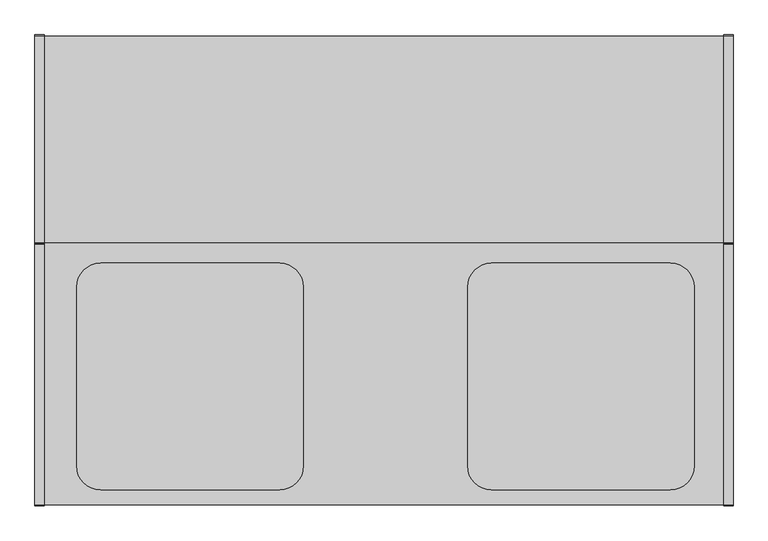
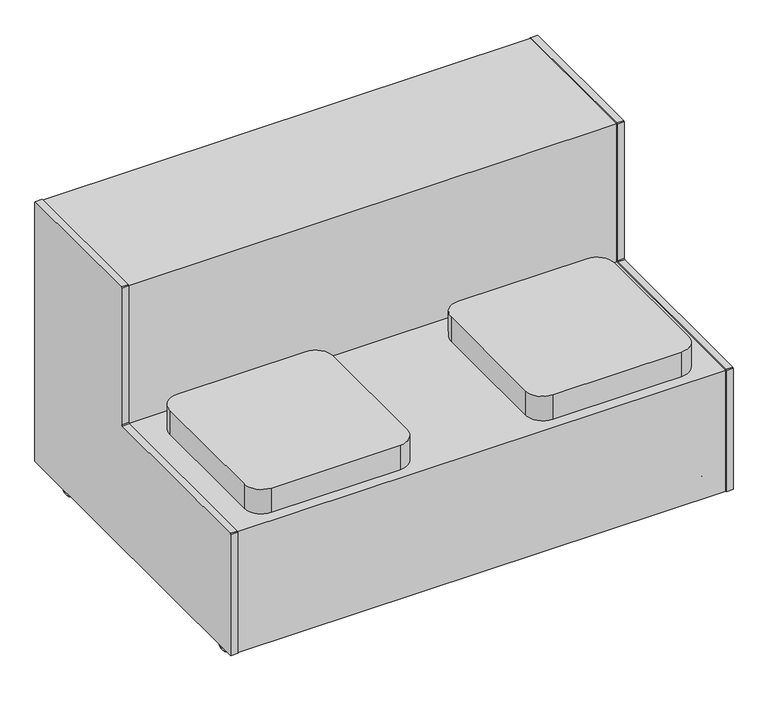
"""IFC4 building model written with IfcOpenShell, lengths in millimetres: furniture geometry, Minibeat : Minibeat."""

from ifc_helpers import new_model, si_unit, point, frame, frame_2d, origin, place, context, project, spatial, polyline, circle_curve, trimmed, segment, composite_curve, outline, extrude, faceted_brep, source, transform, mapped, element, save
from ifc_brep_helpers import plane_surface, cylinder_surface, revolved_surface, advanced_brep


def furniture_8e9b2c81(model_context):
    return source(origin(), model_context, "Body", "SolidModel", [
        advanced_brep(
        [(-561.811536, -89.9573819, 24.3420251), (-561.811536, -80.0000191, 45.0), (-561.811536, -50.0000191, 45.0), (-561.811536, -50.0000191, 36.8735679), (-561.811536, -73.226517, 13.64707), (-516.188464, -89.9573819, 24.3420251), (-516.188464, -73.226517, 13.64707), (-516.188464, -50.0000191, 36.8735679), (-516.188464, -50.0000191, 45.0), (-516.188464, -80.0000191, 45.0), (-559.1648103, -73.226517, 13.64707), (-559.1648103, -78.9722855, 10.1973629), (-519.1648103, -78.9722855, 10.1973629), (-519.1648103, -73.226517, 13.64707), (-519.1648103, -89.9573819, 24.3420251), (-519.1648103, -82.9261725, 10.1973629), (-559.1648103, -82.9261725, 10.1973629), (-559.1648103, -89.9573819, 24.3420251), (-519.1648103, -50.0000191, 36.8735679), (-559.1648103, -50.0000191, 36.8735679), (-519.1648103, -50.0000191, 42.357889), (-559.1648103, -50.0000191, 42.357889), (-559.1648103, -81.2735446, 42.357889), (-519.1648103, -81.2735446, 42.357889)],
        [
            (0, 1),
            (1, 2),
            (2, 3),
            (3, 4),
            (4, 0, circle_curve(frame((-561.811536, -80.949229, 20.0), z_axis=(-1.0, 0.0, 0.0), x_axis=(0.0, 1.0, 0.0)), 10.0)),
            (5, 6, circle_curve(frame((-516.188464, -80.949229, 20.0), z_axis=(1.0, 0.0, 0.0), x_axis=(0.0, 1.0, 0.0)), 10.0)),
            (6, 7),
            (7, 8),
            (8, 9),
            (9, 5),
            (4, 10),
            (10, 11, circle_curve(frame((-559.1648103, -80.949229, 20.0), z_axis=(-1.0, 0.0, 0.0), x_axis=(0.0, 1.0, 0.0)), 10.0)),
            (11, 12),
            (12, 13, circle_curve(frame((-519.1648103, -80.949229, 20.0), z_axis=(1.0, 0.0, 0.0), x_axis=(0.0, 1.0, 0.0)), 10.0)),
            (13, 6),
            (5, 14),
            (14, 15, circle_curve(frame((-519.1648103, -80.949229, 20.0), z_axis=(1.0, 0.0, 0.0), x_axis=(0.0, 1.0, 0.0)), 10.0)),
            (15, 16),
            (16, 17, circle_curve(frame((-559.1648103, -80.949229, 20.0), z_axis=(-1.0, 0.0, 0.0), x_axis=(0.0, 1.0, 0.0)), 10.0)),
            (17, 0),
            (13, 18),
            (18, 7),
            (3, 19),
            (19, 10),
            (2, 8),
            (18, 20),
            (20, 21),
            (21, 19),
            (1, 9),
            (17, 22),
            (22, 23),
            (23, 14),
            (11, 16),
            (15, 12),
            (21, 22),
            (20, 23),
        ],
        [
            plane_surface(frame((-561.811536, -70.949229, 20.0), z_axis=(-1.0, 0.0, 0.0), x_axis=(0.0, 0.0, 1.0))),
            plane_surface(frame((-516.188464, -70.949229, 20.0), z_axis=(1.0, 0.0, 0.0), x_axis=(0.0, 0.0, -1.0))),
            cylinder_surface(frame((-516.188464, -80.949229, 20.0), z_axis=(-1.0, 0.0, 0.0), x_axis=(0.0, 1.0, 0.0)), 10.0),
            plane_surface(frame((-561.811536, -73.226517, 13.64707), z_axis=(0.0, 0.7071067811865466, -0.7071067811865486), x_axis=(1.0, 0.0, 0.0))),
            plane_surface(frame((-561.811536, -50.0000191, 36.8735679), z_axis=(0.0, 1.0, 0.0), x_axis=(1.0, 0.0, 0.0))),
            plane_surface(frame((-561.811536, -50.0000191, 45.0), z_axis=(0.0, 0.0, 1.0), x_axis=(1.0, 0.0, 0.0))),
            plane_surface(frame((-561.811536, -80.0000191, 45.0), z_axis=(0.0, -0.9008152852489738, 0.4342025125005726), x_axis=(1.0, 0.0, 0.0))),
            plane_surface(frame((-519.1648103, -91.853286, 10.1973629), z_axis=(0.0, 0.0, 1.0), x_axis=(0.0, 1.0, 0.0))),
            plane_surface(frame((-559.1648103, -91.853286, 10.1973629), z_axis=(1.0, 0.0, 0.0), x_axis=(0.0, 1.0, 0.0))),
            plane_surface(frame((-559.1648103, -91.853286, 42.357889), z_axis=(0.0, 0.0, -1.0), x_axis=(0.0, 1.0, 0.0))),
            plane_surface(frame((-519.1648103, -91.853286, 42.357889), z_axis=(-1.0, 0.0, 0.0), x_axis=(0.0, 1.0, 0.0))),
        ],
        [
            (0, [[1, 2, 3, 4, 5]]),
            (1, [[6, 7, 8, 9, 10]]),
            (2, [[11, 12, 13, 14, 15, -6, 16, 17, 18, 19, 20, -5]]),
            (3, [[-15, 21, 22, -7]]),
            (3, [[23, 24, -11, -4]]),
            (4, [[25, -8, -22, 26, 27, 28, -23, -3]]),
            (5, [[29, -9, -25, -2]]),
            (6, [[-20, 30, 31, 32, -16, -10, -29, -1]]),
            (7, [[-13, 33, -18, 34]]),
            (8, [[-12, -24, -28, 35, -30, -19, -33]]),
            (9, [[-27, 36, -31, -35]]),
            (10, [[-17, -32, -36, -26, -21, -14, -34]]),
        ],
    ),
        advanced_brep(
        [(-519.1648103, -80.949229, 20.0), (-519.1648103, -98.7996515, 20.0), (-519.1648103, -63.0988065, 20.0), (-521.3143879, -100.949229, 20.0), (-557.0152328, -100.949229, 20.0), (-557.0152328, -60.949229, 20.0), (-521.3143879, -60.949229, 20.0), (-559.1648103, -98.7996515, 20.0), (-559.1648103, -80.949229, 20.0), (-559.1648103, -63.0988065, 20.0)],
        [
            (0, 1),
            (1, 2, circle_curve(frame((-519.1648103, -80.949229, 20.0), z_axis=(1.0, 0.0, 0.0), x_axis=(0.0, 1.0, 0.0)), 17.8504225)),
            (2, 0),
            (2, 1, circle_curve(frame((-519.1648103, -80.949229, 20.0), z_axis=(1.0, 0.0, 0.0), x_axis=(0.0, 1.0, 0.0)), 17.8504225)),
            (3, 4),
            (4, 5, circle_curve(frame((-557.0152328, -80.949229, 20.0), z_axis=(1.0, 0.0, 0.0), x_axis=(0.0, 1.0, 0.0)), 20.0)),
            (5, 6),
            (6, 3, circle_curve(frame((-521.3143879, -80.949229, 20.0), z_axis=(-1.0, 0.0, 0.0), x_axis=(0.0, 1.0, 0.0)), 20.0)),
            (5, 4, circle_curve(frame((-557.0152328, -80.949229, 20.0), z_axis=(1.0, 0.0, 0.0), x_axis=(0.0, 1.0, 0.0)), 20.0)),
            (3, 6, circle_curve(frame((-521.3143879, -80.949229, 20.0), z_axis=(-1.0, 0.0, 0.0), x_axis=(0.0, 1.0, 0.0)), 20.0)),
            (7, 8),
            (8, 9),
            (9, 7, circle_curve(frame((-559.1648103, -80.949229, 20.0), z_axis=(-1.0, 0.0, 0.0), x_axis=(0.0, 1.0, 0.0)), 17.8504225)),
            (7, 9, circle_curve(frame((-559.1648103, -80.949229, 20.0), z_axis=(-1.0, 0.0, 0.0), x_axis=(0.0, 1.0, 0.0)), 17.8504225)),
            (1, 3),
            (6, 2),
            (4, 7),
            (9, 5),
        ],
        [
            plane_surface(frame((-519.1648103, -80.949229, 20.0), z_axis=(1.0, 0.0, 0.0), x_axis=(0.0, 1.0, 0.0))),
            cylinder_surface(frame((-519.1648103, -80.949229, 20.0), z_axis=(1.0, 0.0, 0.0), x_axis=(0.0, 1.0, 0.0)), 20.0),
            plane_surface(frame((-559.1648103, -80.949229, 20.0), z_axis=(-1.0, 0.0, 0.0), x_axis=(0.0, 1.0, 0.0))),
            revolved_surface(polyline([(-521.3143879, -60.949229, 20.0), (-519.1648103, -63.0988065, 20.0)]), (-519.1648103, -80.949229, 20.0), (1.0, 0.0, 0.0)),
            revolved_surface(polyline([(-559.1648103, -63.0988065, 20.0), (-557.0152328, -60.949229, 20.0)]), (-519.1648103, -80.949229, 20.0), (1.0, 0.0, 0.0)),
        ],
        [
            (0, [[1, 2, 3]]),
            (0, [[-3, 4, -1]]),
            (1, [[5, 6, 7, 8]]),
            (1, [[-7, 9, -5, 10]]),
            (2, [[11, 12, 13]]),
            (2, [[-12, -11, 14]]),
            (3, [[15, -8, 16, -2]]),
            (3, [[-16, -10, -15, -4]]),
            (4, [[17, -13, 18, -6]]),
            (4, [[-18, -14, -17, -9]]),
        ],
    ),
        advanced_brep(
        [(561.811536, -89.9573819, 24.3420251), (561.811536, -73.226517, 13.64707), (561.811536, -50.0000191, 36.8735679), (561.811536, -50.0000191, 45.0), (561.811536, -80.0000191, 45.0), (516.188464, -89.9573819, 24.3420251), (516.188464, -80.0000191, 45.0), (516.188464, -50.0000191, 45.0), (516.188464, -50.0000191, 36.8735679), (516.188464, -73.226517, 13.64707), (559.1648103, -89.9573819, 24.3420251), (559.1648103, -82.9261725, 10.1973629), (519.1648103, -82.9261725, 10.1973629), (519.1648103, -89.9573819, 24.3420251), (519.1648103, -73.226517, 13.64707), (519.1648103, -78.9722855, 10.1973629), (559.1648103, -78.9722855, 10.1973629), (559.1648103, -73.226517, 13.64707), (559.1648103, -50.0000191, 36.8735679), (519.1648103, -50.0000191, 36.8735679), (559.1648103, -50.0000191, 42.357889), (519.1648103, -50.0000191, 42.357889), (519.1648103, -81.2735446, 42.357889), (559.1648103, -81.2735446, 42.357889)],
        [
            (0, 1, circle_curve(frame((561.811536, -80.949229, 20.0), z_axis=(1.0, 0.0, 0.0), x_axis=(0.0, 1.0, 0.0)), 10.0)),
            (1, 2),
            (2, 3),
            (3, 4),
            (4, 0),
            (5, 6),
            (6, 7),
            (7, 8),
            (8, 9),
            (9, 5, circle_curve(frame((516.188464, -80.949229, 20.0), z_axis=(-1.0, 0.0, 0.0), x_axis=(0.0, 1.0, 0.0)), 10.0)),
            (0, 10),
            (10, 11, circle_curve(frame((559.1648103, -80.949229, 20.0), z_axis=(1.0, 0.0, 0.0), x_axis=(0.0, 1.0, 0.0)), 10.0)),
            (11, 12),
            (12, 13, circle_curve(frame((519.1648103, -80.949229, 20.0), z_axis=(-1.0, 0.0, 0.0), x_axis=(0.0, 1.0, 0.0)), 10.0)),
            (13, 5),
            (9, 14),
            (14, 15, circle_curve(frame((519.1648103, -80.949229, 20.0), z_axis=(-1.0, 0.0, 0.0), x_axis=(0.0, 1.0, 0.0)), 10.0)),
            (15, 16),
            (16, 17, circle_curve(frame((559.1648103, -80.949229, 20.0), z_axis=(1.0, 0.0, 0.0), x_axis=(0.0, 1.0, 0.0)), 10.0)),
            (17, 1),
            (17, 18),
            (18, 2),
            (8, 19),
            (19, 14),
            (18, 20),
            (20, 21),
            (21, 19),
            (7, 3),
            (6, 4),
            (13, 22),
            (22, 23),
            (23, 10),
            (15, 12),
            (11, 16),
            (23, 20),
            (22, 21),
        ],
        [
            plane_surface(frame((561.811536, -70.949229, 20.0), z_axis=(1.0, 0.0, 0.0), x_axis=(0.0, 0.0, 1.0))),
            plane_surface(frame((516.188464, -70.949229, 20.0), z_axis=(-1.0, 0.0, 0.0), x_axis=(0.0, 0.0, -1.0))),
            cylinder_surface(frame((516.188464, -80.949229, 20.0), z_axis=(1.0, 0.0, 0.0), x_axis=(0.0, 1.0, 0.0)), 10.0),
            plane_surface(frame((561.811536, -73.226517, 13.64707), z_axis=(0.0, 0.7071067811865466, -0.7071067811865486), x_axis=(-1.0, 0.0, 0.0))),
            plane_surface(frame((561.811536, -50.0000191, 36.8735679), z_axis=(0.0, 1.0, 0.0), x_axis=(-1.0, 0.0, 0.0))),
            plane_surface(frame((561.811536, -50.0000191, 45.0), z_axis=(0.0, 0.0, 1.0), x_axis=(-1.0, 0.0, 0.0))),
            plane_surface(frame((561.811536, -80.0000191, 45.0), z_axis=(0.0, -0.9008152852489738, 0.4342025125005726), x_axis=(-1.0, 0.0, 0.0))),
            plane_surface(frame((519.1648103, -91.853286, 10.1973629), z_axis=(0.0, 0.0, 1.0), x_axis=(0.0, 1.0, 0.0))),
            plane_surface(frame((559.1648103, -91.853286, 10.1973629), z_axis=(-1.0, 0.0, 0.0), x_axis=(0.0, 1.0, 0.0))),
            plane_surface(frame((559.1648103, -91.853286, 42.357889), z_axis=(0.0, 0.0, -1.0), x_axis=(0.0, 1.0, 0.0))),
            plane_surface(frame((519.1648103, -91.853286, 42.357889), z_axis=(1.0, 0.0, 0.0), x_axis=(0.0, 1.0, 0.0))),
        ],
        [
            (0, [[1, 2, 3, 4, 5]]),
            (1, [[6, 7, 8, 9, 10]]),
            (2, [[-1, 11, 12, 13, 14, 15, -10, 16, 17, 18, 19, 20]]),
            (3, [[-2, -20, 21, 22]]),
            (3, [[-9, 23, 24, -16]]),
            (4, [[-3, -22, 25, 26, 27, -23, -8, 28]]),
            (5, [[-4, -28, -7, 29]]),
            (6, [[-5, -29, -6, -15, 30, 31, 32, -11]]),
            (7, [[33, -13, 34, -18]]),
            (8, [[-34, -12, -32, 35, -25, -21, -19]]),
            (9, [[-35, -31, 36, -26]]),
            (10, [[-33, -17, -24, -27, -36, -30, -14]]),
        ],
    ),
        advanced_brep(
        [(519.1648103, -80.949229, 20.0), (519.1648103, -63.0988065, 20.0), (519.1648103, -98.7996515, 20.0), (521.3143879, -100.949229, 20.0), (521.3143879, -60.949229, 20.0), (557.0152328, -60.949229, 20.0), (557.0152328, -100.949229, 20.0), (559.1648103, -98.7996515, 20.0), (559.1648103, -63.0988065, 20.0), (559.1648103, -80.949229, 20.0)],
        [
            (0, 1),
            (1, 2, circle_curve(frame((519.1648103, -80.949229, 20.0), z_axis=(-1.0, 0.0, 0.0), x_axis=(0.0, 1.0, 0.0)), 17.8504225)),
            (2, 0),
            (2, 1, circle_curve(frame((519.1648103, -80.949229, 20.0), z_axis=(-1.0, 0.0, 0.0), x_axis=(0.0, 1.0, 0.0)), 17.8504225)),
            (3, 4, circle_curve(frame((521.3143879, -80.949229, 20.0), z_axis=(1.0, 0.0, 0.0), x_axis=(0.0, 1.0, 0.0)), 20.0)),
            (4, 5),
            (5, 6, circle_curve(frame((557.0152328, -80.949229, 20.0), z_axis=(-1.0, 0.0, 0.0), x_axis=(0.0, 1.0, 0.0)), 20.0)),
            (6, 3),
            (4, 3, circle_curve(frame((521.3143879, -80.949229, 20.0), z_axis=(1.0, 0.0, 0.0), x_axis=(0.0, 1.0, 0.0)), 20.0)),
            (6, 5, circle_curve(frame((557.0152328, -80.949229, 20.0), z_axis=(-1.0, 0.0, 0.0), x_axis=(0.0, 1.0, 0.0)), 20.0)),
            (7, 8, circle_curve(frame((559.1648103, -80.949229, 20.0), z_axis=(1.0, 0.0, 0.0), x_axis=(0.0, 1.0, 0.0)), 17.8504225)),
            (8, 9),
            (9, 7),
            (8, 7, circle_curve(frame((559.1648103, -80.949229, 20.0), z_axis=(1.0, 0.0, 0.0), x_axis=(0.0, 1.0, 0.0)), 17.8504225)),
            (1, 4),
            (3, 2),
            (5, 8),
            (7, 6),
        ],
        [
            plane_surface(frame((519.1648103, -80.949229, 20.0), z_axis=(-1.0, 0.0, 0.0), x_axis=(0.0, 1.0, 0.0))),
            cylinder_surface(frame((519.1648103, -80.949229, 20.0), z_axis=(-1.0, 0.0, 0.0), x_axis=(0.0, 1.0, 0.0)), 20.0),
            plane_surface(frame((559.1648103, -80.949229, 20.0), z_axis=(1.0, 0.0, 0.0), x_axis=(0.0, 1.0, 0.0))),
            revolved_surface(polyline([(521.3143879, -60.949229, 20.0), (519.1648103, -63.0988065, 20.0)]), (519.1648103, -80.949229, 20.0), (-1.0, 0.0, 0.0)),
            revolved_surface(polyline([(559.1648103, -63.0988065, 20.0), (557.0152328, -60.949229, 20.0)]), (519.1648103, -80.949229, 20.0), (-1.0, 0.0, 0.0)),
        ],
        [
            (0, [[1, 2, 3]]),
            (0, [[-3, 4, -1]]),
            (1, [[5, 6, 7, 8]]),
            (1, [[9, -8, 10, -6]]),
            (2, [[11, 12, 13]]),
            (2, [[14, -13, -12]]),
            (3, [[-2, 15, -5, 16]]),
            (3, [[-4, -16, -9, -15]]),
            (4, [[-7, 17, -11, 18]]),
            (4, [[-10, -18, -14, -17]]),
        ],
    ),
        advanced_brep(
        [(-561.811536, -719.9573819, 24.3420251), (-561.811536, -710.0000191, 45.0), (-561.811536, -680.0000191, 45.0), (-561.811536, -680.0000191, 36.8735679), (-561.811536, -703.226517, 13.64707), (-516.188464, -719.9573819, 24.3420251), (-516.188464, -703.226517, 13.64707), (-516.188464, -680.0000191, 36.8735679), (-516.188464, -680.0000191, 45.0), (-516.188464, -710.0000191, 45.0), (-559.1648103, -703.226517, 13.64707), (-559.1648103, -708.9722855, 10.1973629), (-519.1648103, -708.9722855, 10.1973629), (-519.1648103, -703.226517, 13.64707), (-519.1648103, -719.9573819, 24.3420251), (-519.1648103, -712.9261725, 10.1973629), (-559.1648103, -712.9261725, 10.1973629), (-559.1648103, -719.9573819, 24.3420251), (-519.1648103, -680.0000191, 36.8735679), (-559.1648103, -680.0000191, 36.8735679), (-519.1648103, -680.0000191, 42.357889), (-559.1648103, -680.0000191, 42.357889), (-559.1648103, -711.2735446, 42.357889), (-519.1648103, -711.2735446, 42.357889)],
        [
            (0, 1),
            (1, 2),
            (2, 3),
            (3, 4),
            (4, 0, circle_curve(frame((-561.811536, -710.949229, 20.0), z_axis=(-1.0, 0.0, 0.0), x_axis=(0.0, 1.0, 0.0)), 10.0)),
            (5, 6, circle_curve(frame((-516.188464, -710.949229, 20.0), z_axis=(1.0, 0.0, 0.0), x_axis=(0.0, 1.0, 0.0)), 10.0)),
            (6, 7),
            (7, 8),
            (8, 9),
            (9, 5),
            (4, 10),
            (10, 11, circle_curve(frame((-559.1648103, -710.949229, 20.0), z_axis=(-1.0, 0.0, 0.0), x_axis=(0.0, 1.0, 0.0)), 10.0)),
            (11, 12),
            (12, 13, circle_curve(frame((-519.1648103, -710.949229, 20.0), z_axis=(1.0, 0.0, 0.0), x_axis=(0.0, 1.0, 0.0)), 10.0)),
            (13, 6),
            (5, 14),
            (14, 15, circle_curve(frame((-519.1648103, -710.949229, 20.0), z_axis=(1.0, 0.0, 0.0), x_axis=(0.0, 1.0, 0.0)), 10.0)),
            (15, 16),
            (16, 17, circle_curve(frame((-559.1648103, -710.949229, 20.0), z_axis=(-1.0, 0.0, 0.0), x_axis=(0.0, 1.0, 0.0)), 10.0)),
            (17, 0),
            (13, 18),
            (18, 7),
            (3, 19),
            (19, 10),
            (2, 8),
            (18, 20),
            (20, 21),
            (21, 19),
            (1, 9),
            (17, 22),
            (22, 23),
            (23, 14),
            (11, 16),
            (15, 12),
            (21, 22),
            (20, 23),
        ],
        [
            plane_surface(frame((-561.811536, -700.949229, 20.0), z_axis=(-1.0, 0.0, 0.0), x_axis=(0.0, 0.0, 1.0))),
            plane_surface(frame((-516.188464, -700.949229, 20.0), z_axis=(1.0, 0.0, 0.0), x_axis=(0.0, 0.0, -1.0))),
            cylinder_surface(frame((-516.188464, -710.949229, 20.0), z_axis=(-1.0, 0.0, 0.0), x_axis=(0.0, 1.0, 0.0)), 10.0),
            plane_surface(frame((-561.811536, -703.226517, 13.64707), z_axis=(0.0, 0.7071067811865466, -0.7071067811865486), x_axis=(1.0, 0.0, 0.0))),
            plane_surface(frame((-561.811536, -680.0000191, 36.8735679), z_axis=(0.0, 1.0, 0.0), x_axis=(1.0, 0.0, 0.0))),
            plane_surface(frame((-561.811536, -680.0000191, 45.0), z_axis=(0.0, 0.0, 1.0), x_axis=(1.0, 0.0, 0.0))),
            plane_surface(frame((-561.811536, -710.0000191, 45.0), z_axis=(0.0, -0.9008152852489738, 0.4342025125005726), x_axis=(1.0, 0.0, 0.0))),
            plane_surface(frame((-519.1648103, -721.853286, 10.1973629), z_axis=(0.0, 0.0, 1.0), x_axis=(0.0, 1.0, 0.0))),
            plane_surface(frame((-559.1648103, -721.853286, 10.1973629), z_axis=(1.0, 0.0, 0.0), x_axis=(0.0, 1.0, 0.0))),
            plane_surface(frame((-559.1648103, -721.853286, 42.357889), z_axis=(0.0, 0.0, -1.0), x_axis=(0.0, 1.0, 0.0))),
            plane_surface(frame((-519.1648103, -721.853286, 42.357889), z_axis=(-1.0, 0.0, 0.0), x_axis=(0.0, 1.0, 0.0))),
        ],
        [
            (0, [[1, 2, 3, 4, 5]]),
            (1, [[6, 7, 8, 9, 10]]),
            (2, [[11, 12, 13, 14, 15, -6, 16, 17, 18, 19, 20, -5]]),
            (3, [[-15, 21, 22, -7]]),
            (3, [[23, 24, -11, -4]]),
            (4, [[25, -8, -22, 26, 27, 28, -23, -3]]),
            (5, [[29, -9, -25, -2]]),
            (6, [[-20, 30, 31, 32, -16, -10, -29, -1]]),
            (7, [[-13, 33, -18, 34]]),
            (8, [[-12, -24, -28, 35, -30, -19, -33]]),
            (9, [[-27, 36, -31, -35]]),
            (10, [[-17, -32, -36, -26, -21, -14, -34]]),
        ],
    ),
        advanced_brep(
        [(-519.1648103, -710.949229, 20.0), (-519.1648103, -728.7996515, 20.0), (-519.1648103, -693.0988065, 20.0), (-521.3143879, -730.949229, 20.0), (-557.0152328, -730.949229, 20.0), (-557.0152328, -690.949229, 20.0), (-521.3143879, -690.949229, 20.0), (-559.1648103, -728.7996515, 20.0), (-559.1648103, -710.949229, 20.0), (-559.1648103, -693.0988065, 20.0)],
        [
            (0, 1),
            (1, 2, circle_curve(frame((-519.1648103, -710.949229, 20.0), z_axis=(1.0, 0.0, 0.0), x_axis=(0.0, 1.0, 0.0)), 17.8504225)),
            (2, 0),
            (2, 1, circle_curve(frame((-519.1648103, -710.949229, 20.0), z_axis=(1.0, 0.0, 0.0), x_axis=(0.0, 1.0, 0.0)), 17.8504225)),
            (3, 4),
            (4, 5, circle_curve(frame((-557.0152328, -710.949229, 20.0), z_axis=(1.0, 0.0, 0.0), x_axis=(0.0, 1.0, 0.0)), 20.0)),
            (5, 6),
            (6, 3, circle_curve(frame((-521.3143879, -710.949229, 20.0), z_axis=(-1.0, 0.0, 0.0), x_axis=(0.0, 1.0, 0.0)), 20.0)),
            (5, 4, circle_curve(frame((-557.0152328, -710.949229, 20.0), z_axis=(1.0, 0.0, 0.0), x_axis=(0.0, 1.0, 0.0)), 20.0)),
            (3, 6, circle_curve(frame((-521.3143879, -710.949229, 20.0), z_axis=(-1.0, 0.0, 0.0), x_axis=(0.0, 1.0, 0.0)), 20.0)),
            (7, 8),
            (8, 9),
            (9, 7, circle_curve(frame((-559.1648103, -710.949229, 20.0), z_axis=(-1.0, 0.0, 0.0), x_axis=(0.0, 1.0, 0.0)), 17.8504225)),
            (7, 9, circle_curve(frame((-559.1648103, -710.949229, 20.0), z_axis=(-1.0, 0.0, 0.0), x_axis=(0.0, 1.0, 0.0)), 17.8504225)),
            (1, 3),
            (6, 2),
            (4, 7),
            (9, 5),
        ],
        [
            plane_surface(frame((-519.1648103, -710.949229, 20.0), z_axis=(1.0, 0.0, 0.0), x_axis=(0.0, 1.0, 0.0))),
            cylinder_surface(frame((-519.1648103, -710.949229, 20.0), z_axis=(1.0, 0.0, 0.0), x_axis=(0.0, 1.0, 0.0)), 20.0),
            plane_surface(frame((-559.1648103, -710.949229, 20.0), z_axis=(-1.0, 0.0, 0.0), x_axis=(0.0, 1.0, 0.0))),
            revolved_surface(polyline([(-521.3143879, -690.949229, 20.0), (-519.1648103, -693.0988065, 20.0)]), (-519.1648103, -710.949229, 20.0), (1.0, 0.0, 0.0)),
            revolved_surface(polyline([(-559.1648103, -693.0988065, 20.0), (-557.0152328, -690.949229, 20.0)]), (-519.1648103, -710.949229, 20.0), (1.0, 0.0, 0.0)),
        ],
        [
            (0, [[1, 2, 3]]),
            (0, [[-3, 4, -1]]),
            (1, [[5, 6, 7, 8]]),
            (1, [[-7, 9, -5, 10]]),
            (2, [[11, 12, 13]]),
            (2, [[-12, -11, 14]]),
            (3, [[15, -8, 16, -2]]),
            (3, [[-16, -10, -15, -4]]),
            (4, [[17, -13, 18, -6]]),
            (4, [[-18, -14, -17, -9]]),
        ],
    ),
        advanced_brep(
        [(561.811536, -719.9573819, 24.3420251), (561.811536, -703.226517, 13.64707), (561.811536, -680.0000191, 36.8735679), (561.811536, -680.0000191, 45.0), (561.811536, -710.0000191, 45.0), (516.188464, -719.9573819, 24.3420251), (516.188464, -710.0000191, 45.0), (516.188464, -680.0000191, 45.0), (516.188464, -680.0000191, 36.8735679), (516.188464, -703.226517, 13.64707), (559.1648103, -719.9573819, 24.3420251), (559.1648103, -712.9261725, 10.1973629), (519.1648103, -712.9261725, 10.1973629), (519.1648103, -719.9573819, 24.3420251), (519.1648103, -703.226517, 13.64707), (519.1648103, -708.9722855, 10.1973629), (559.1648103, -708.9722855, 10.1973629), (559.1648103, -703.226517, 13.64707), (559.1648103, -680.0000191, 36.8735679), (519.1648103, -680.0000191, 36.8735679), (559.1648103, -680.0000191, 42.357889), (519.1648103, -680.0000191, 42.357889), (519.1648103, -711.2735446, 42.357889), (559.1648103, -711.2735446, 42.357889)],
        [
            (0, 1, circle_curve(frame((561.811536, -710.949229, 20.0), z_axis=(1.0, 0.0, 0.0), x_axis=(0.0, 1.0, 0.0)), 10.0)),
            (1, 2),
            (2, 3),
            (3, 4),
            (4, 0),
            (5, 6),
            (6, 7),
            (7, 8),
            (8, 9),
            (9, 5, circle_curve(frame((516.188464, -710.949229, 20.0), z_axis=(-1.0, 0.0, 0.0), x_axis=(0.0, 1.0, 0.0)), 10.0)),
            (0, 10),
            (10, 11, circle_curve(frame((559.1648103, -710.949229, 20.0), z_axis=(1.0, 0.0, 0.0), x_axis=(0.0, 1.0, 0.0)), 10.0)),
            (11, 12),
            (12, 13, circle_curve(frame((519.1648103, -710.949229, 20.0), z_axis=(-1.0, 0.0, 0.0), x_axis=(0.0, 1.0, 0.0)), 10.0)),
            (13, 5),
            (9, 14),
            (14, 15, circle_curve(frame((519.1648103, -710.949229, 20.0), z_axis=(-1.0, 0.0, 0.0), x_axis=(0.0, 1.0, 0.0)), 10.0)),
            (15, 16),
            (16, 17, circle_curve(frame((559.1648103, -710.949229, 20.0), z_axis=(1.0, 0.0, 0.0), x_axis=(0.0, 1.0, 0.0)), 10.0)),
            (17, 1),
            (17, 18),
            (18, 2),
            (8, 19),
            (19, 14),
            (18, 20),
            (20, 21),
            (21, 19),
            (7, 3),
            (6, 4),
            (13, 22),
            (22, 23),
            (23, 10),
            (15, 12),
            (11, 16),
            (23, 20),
            (22, 21),
        ],
        [
            plane_surface(frame((561.811536, -700.949229, 20.0), z_axis=(1.0, 0.0, 0.0), x_axis=(0.0, 0.0, 1.0))),
            plane_surface(frame((516.188464, -700.949229, 20.0), z_axis=(-1.0, 0.0, 0.0), x_axis=(0.0, 0.0, -1.0))),
            cylinder_surface(frame((516.188464, -710.949229, 20.0), z_axis=(1.0, 0.0, 0.0), x_axis=(0.0, 1.0, 0.0)), 10.0),
            plane_surface(frame((561.811536, -703.226517, 13.64707), z_axis=(0.0, 0.7071067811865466, -0.7071067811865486), x_axis=(-1.0, 0.0, 0.0))),
            plane_surface(frame((561.811536, -680.0000191, 36.8735679), z_axis=(0.0, 1.0, 0.0), x_axis=(-1.0, 0.0, 0.0))),
            plane_surface(frame((561.811536, -680.0000191, 45.0), z_axis=(0.0, 0.0, 1.0), x_axis=(-1.0, 0.0, 0.0))),
            plane_surface(frame((561.811536, -710.0000191, 45.0), z_axis=(0.0, -0.9008152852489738, 0.4342025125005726), x_axis=(-1.0, 0.0, 0.0))),
            plane_surface(frame((519.1648103, -721.853286, 10.1973629), z_axis=(0.0, 0.0, 1.0), x_axis=(0.0, 1.0, 0.0))),
            plane_surface(frame((559.1648103, -721.853286, 10.1973629), z_axis=(-1.0, 0.0, 0.0), x_axis=(0.0, 1.0, 0.0))),
            plane_surface(frame((559.1648103, -721.853286, 42.357889), z_axis=(0.0, 0.0, -1.0), x_axis=(0.0, 1.0, 0.0))),
            plane_surface(frame((519.1648103, -721.853286, 42.357889), z_axis=(1.0, 0.0, 0.0), x_axis=(0.0, 1.0, 0.0))),
        ],
        [
            (0, [[1, 2, 3, 4, 5]]),
            (1, [[6, 7, 8, 9, 10]]),
            (2, [[-1, 11, 12, 13, 14, 15, -10, 16, 17, 18, 19, 20]]),
            (3, [[-2, -20, 21, 22]]),
            (3, [[-9, 23, 24, -16]]),
            (4, [[-3, -22, 25, 26, 27, -23, -8, 28]]),
            (5, [[-4, -28, -7, 29]]),
            (6, [[-5, -29, -6, -15, 30, 31, 32, -11]]),
            (7, [[33, -13, 34, -18]]),
            (8, [[-34, -12, -32, 35, -25, -21, -19]]),
            (9, [[-35, -31, 36, -26]]),
            (10, [[-33, -17, -24, -27, -36, -30, -14]]),
        ],
    ),
        advanced_brep(
        [(519.1648103, -710.949229, 20.0), (519.1648103, -693.0988065, 20.0), (519.1648103, -728.7996515, 20.0), (521.3143879, -730.949229, 20.0), (521.3143879, -690.949229, 20.0), (557.0152328, -690.949229, 20.0), (557.0152328, -730.949229, 20.0), (559.1648103, -728.7996515, 20.0), (559.1648103, -693.0988065, 20.0), (559.1648103, -710.949229, 20.0)],
        [
            (0, 1),
            (1, 2, circle_curve(frame((519.1648103, -710.949229, 20.0), z_axis=(-1.0, 0.0, 0.0), x_axis=(0.0, 1.0, 0.0)), 17.8504225)),
            (2, 0),
            (2, 1, circle_curve(frame((519.1648103, -710.949229, 20.0), z_axis=(-1.0, 0.0, 0.0), x_axis=(0.0, 1.0, 0.0)), 17.8504225)),
            (3, 4, circle_curve(frame((521.3143879, -710.949229, 20.0), z_axis=(1.0, 0.0, 0.0), x_axis=(0.0, 1.0, 0.0)), 20.0)),
            (4, 5),
            (5, 6, circle_curve(frame((557.0152328, -710.949229, 20.0), z_axis=(-1.0, 0.0, 0.0), x_axis=(0.0, 1.0, 0.0)), 20.0)),
            (6, 3),
            (4, 3, circle_curve(frame((521.3143879, -710.949229, 20.0), z_axis=(1.0, 0.0, 0.0), x_axis=(0.0, 1.0, 0.0)), 20.0)),
            (6, 5, circle_curve(frame((557.0152328, -710.949229, 20.0), z_axis=(-1.0, 0.0, 0.0), x_axis=(0.0, 1.0, 0.0)), 20.0)),
            (7, 8, circle_curve(frame((559.1648103, -710.949229, 20.0), z_axis=(1.0, 0.0, 0.0), x_axis=(0.0, 1.0, 0.0)), 17.8504225)),
            (8, 9),
            (9, 7),
            (8, 7, circle_curve(frame((559.1648103, -710.949229, 20.0), z_axis=(1.0, 0.0, 0.0), x_axis=(0.0, 1.0, 0.0)), 17.8504225)),
            (1, 4),
            (3, 2),
            (5, 8),
            (7, 6),
        ],
        [
            plane_surface(frame((519.1648103, -710.949229, 20.0), z_axis=(-1.0, 0.0, 0.0), x_axis=(0.0, 1.0, 0.0))),
            cylinder_surface(frame((519.1648103, -710.949229, 20.0), z_axis=(-1.0, 0.0, 0.0), x_axis=(0.0, 1.0, 0.0)), 20.0),
            plane_surface(frame((559.1648103, -710.949229, 20.0), z_axis=(1.0, 0.0, 0.0), x_axis=(0.0, 1.0, 0.0))),
            revolved_surface(polyline([(521.3143879, -690.949229, 20.0), (519.1648103, -693.0988065, 20.0)]), (519.1648103, -710.949229, 20.0), (-1.0, 0.0, 0.0)),
            revolved_surface(polyline([(559.1648103, -693.0988065, 20.0), (557.0152328, -690.949229, 20.0)]), (519.1648103, -710.949229, 20.0), (-1.0, 0.0, 0.0)),
        ],
        [
            (0, [[1, 2, 3]]),
            (0, [[-3, 4, -1]]),
            (1, [[5, 6, 7, 8]]),
            (1, [[9, -8, 10, -6]]),
            (2, [[11, 12, 13]]),
            (2, [[14, -13, -12]]),
            (3, [[-2, 15, -5, 16]]),
            (3, [[-4, -16, -9, -15]]),
            (4, [[-7, 17, -11, 18]]),
            (4, [[-10, -18, -14, -17]]),
        ],
    ),
        extrude(outline(composite_curve([segment(trimmed(circle_curve(frame_2d((-175.0000006, -723.0000191)), 40.0), [point((-135.0000006, -723.0000191))], [point((-175.0000006, -763.0000191))], False, "CARTESIAN"), True, "CONTINUOUS"), segment(polyline([(-175.0000006, -763.0000191), (-475.0000006, -763.0000191)]), True, "CONTINUOUS"), segment(trimmed(circle_curve(frame_2d((-475.0000006, -723.0000191)), 40.0), [point((-475.0000006, -763.0000191))], [point((-515.0000006, -723.0000191))], False, "CARTESIAN"), True, "CONTINUOUS"), segment(polyline([(-515.0000006, -723.0000191), (-515.0000006, -423.0000191)]), True, "CONTINUOUS"), segment(trimmed(circle_curve(frame_2d((-475.0000006, -423.0000191)), 40.0), [point((-515.0000006, -423.0000191))], [point((-475.0000006, -383.0000191))], False, "CARTESIAN"), True, "CONTINUOUS"), segment(polyline([(-475.0000006, -383.0000191), (-175.0000006, -383.0000191)]), True, "CONTINUOUS"), segment(trimmed(circle_curve(frame_2d((-175.0000006, -423.0000191)), 40.0), [point((-175.0000006, -383.0000191))], [point((-135.0000006, -423.0000191))], False, "CARTESIAN"), True, "CONTINUOUS"), segment(polyline([(-135.0000006, -423.0000191), (-135.0000006, -723.0000191)]), True, "CONTINUOUS")], self_intersect=False)), frame((0.0, 0.0, 343.0), z_axis=(0.0, 0.0, 1.0), x_axis=(1.0, 0.0, 0.0)), (0.0, 0.0, 1.0), 60.0),
        extrude(outline(composite_curve([segment(trimmed(circle_curve(frame_2d((479.9999994, -723.0000191)), 40.0), [point((519.9999994, -723.0000191))], [point((479.9999994, -763.0000191))], False, "CARTESIAN"), True, "CONTINUOUS"), segment(polyline([(479.9999994, -763.0000191), (179.9999994, -763.0000191)]), True, "CONTINUOUS"), segment(trimmed(circle_curve(frame_2d((179.9999994, -723.0000191)), 40.0), [point((179.9999994, -763.0000191))], [point((139.9999994, -723.0000191))], False, "CARTESIAN"), True, "CONTINUOUS"), segment(polyline([(139.9999994, -723.0000191), (139.9999994, -423.0000191)]), True, "CONTINUOUS"), segment(trimmed(circle_curve(frame_2d((179.9999994, -423.0000191)), 40.0), [point((139.9999994, -423.0000191))], [point((179.9999994, -383.0000191))], False, "CARTESIAN"), True, "CONTINUOUS"), segment(polyline([(179.9999994, -383.0000191), (479.9999994, -383.0000191)]), True, "CONTINUOUS"), segment(trimmed(circle_curve(frame_2d((479.9999994, -423.0000191)), 40.0), [point((479.9999994, -383.0000191))], [point((519.9999994, -423.0000191))], False, "CARTESIAN"), True, "CONTINUOUS"), segment(polyline([(519.9999994, -423.0000191), (519.9999994, -723.0000191)]), True, "CONTINUOUS")], self_intersect=False)), frame((0.0, 0.0, 343.0), z_axis=(0.0, 0.0, 1.0), x_axis=(1.0, 0.0, 0.0)), (0.0, 0.0, 1.0), 60.0),
        extrude(outline(polyline([(-348.0000191, 685.0), (-2.0, 685.0), (0.0, 683.0), (0.0, 45.0), (-790.0, 45.0), (-790.0, 343.0), (-788.0, 345.0), (-352.0000191, 345.0), (-350.0000191, 347.0), (-350.0000191, 683.0), (-348.0000191, 685.0)])), frame((569.0, 0.0, 0.0), z_axis=(1.0, 0.0, 0.0), x_axis=(0.0, 1.0, 0.0)), (0.0, 0.0, 1.0), 16.0),
        faceted_brep([(569.0, -348.0000191, 683.0), (569.0, -348.0000191, 343.0), (569.0, -788.0, 343.0), (569.0, -788.0, 45.0), (569.0, -15.0000191, 45.0), (569.0, -15.0000191, 65.0), (569.0, -310.0000191, 65.0), (569.0, -310.0000191, 357.0), (569.0, -20.0, 357.0), (569.0, -20.0, 373.0), (569.0, -310.0000191, 373.0), (569.0, -310.0000191, 665.0), (569.0, -2.0, 665.0), (569.0, -2.0, 683.0), (-569.0, -348.0000191, 683.0), (-569.0, -2.0, 683.0), (-569.0, -2.0, 665.0), (-569.0, -310.0000191, 665.0), (-569.0, -310.0000191, 373.0), (-569.0, -20.0, 373.0), (-569.0, -20.0, 357.0), (-569.0, -310.0000191, 357.0), (-569.0, -310.0000191, 65.0), (-569.0, -15.0000191, 65.0), (-569.0, -15.0000191, 45.0), (-569.0, -788.0, 45.0), (-569.0, -788.0, 343.0), (-569.0, -348.0000191, 343.0), (-8.0, -310.0000191, 65.0), (-8.0, -20.0, 65.0), (8.0, -20.0, 65.0), (8.0, -310.0000191, 65.0), (8.0, -310.0000191, 357.0), (-8.0, -310.0000191, 357.0), (8.0, -20.0, 357.0), (-8.0, -20.0, 357.0), (-8.0, -20.0, 373.0), (-8.0, -20.0, 665.0), (8.0, -20.0, 665.0), (8.0, -20.0, 373.0), (8.0, -310.0000191, 373.0), (-8.0, -310.0000191, 373.0), (8.0, -310.0000191, 665.0), (-8.0, -310.0000191, 665.0)], [[[0, 1, 2, 3, 4, 5, 6, 7, 8, 9, 10, 11, 12, 13]], [[14, 15, 16, 17, 18, 19, 20, 21, 22, 23, 24, 25, 26, 27]], [[1, 0, 14, 27]], [[2, 1, 27, 26]], [[3, 2, 26, 25]], [[4, 3, 25, 24]], [[5, 4, 24, 23]], [[6, 5, 23, 22, 28, 29, 30, 31]], [[7, 6, 31, 32]], [[22, 21, 33, 28]], [[8, 7, 32, 34]], [[21, 20, 35, 33]], [[9, 8, 34, 30, 29, 35, 20, 19, 36, 37, 38, 39]], [[10, 9, 39, 40]], [[19, 18, 41, 36]], [[11, 10, 40, 42]], [[18, 17, 43, 41]], [[12, 11, 42, 38, 37, 43, 17, 16]], [[13, 12, 16, 15]], [[0, 13, 15, 14]], [[35, 29, 28, 33]], [[37, 36, 41, 43]], [[30, 34, 32, 31]], [[39, 38, 42, 40]]]),
        extrude(outline(polyline([(-348.0000191, 685.0), (-2.0, 685.0), (0.0, 683.0), (0.0, 45.0), (-790.0, 45.0), (-790.0, 343.0), (-788.0, 345.0), (-352.0000191, 345.0), (-350.0000191, 347.0), (-350.0000191, 683.0), (-348.0000191, 685.0)])), frame((-585.0, 0.0, 0.0), z_axis=(1.0, 0.0, 0.0), x_axis=(0.0, 1.0, 0.0)), (0.0, 0.0, 1.0), 16.0),
    ])


if __name__ == "__main__":
    model = new_model("IFC4")
    model_context = context("Model", 3, world=origin())
    ifc_project = project(units=[si_unit("LENGTHUNIT", "METRE", prefix="MILLI")], contexts=[model_context])
    site = spatial("IfcSite", under=ifc_project)
    building = spatial("IfcBuilding", under=site)
    placement = place(None, origin())
    furniture_shape = furniture_8e9b2c81(model_context)
    element("IfcFurniture", 1, ObjectType="Minibeat : Minibeat", at=placement, inside=building, context=model_context, shape_type="MappedRepresentation", body=[
        mapped(furniture_shape, transform((0.0, 0.0, 0.0), x_axis=(1.0, 0.0, 0.0), y_axis=(0.0, 1.0, 0.0), z_axis=(0.0, 0.0, 1.0))),
    ])
    save(model, "model.ifc")
